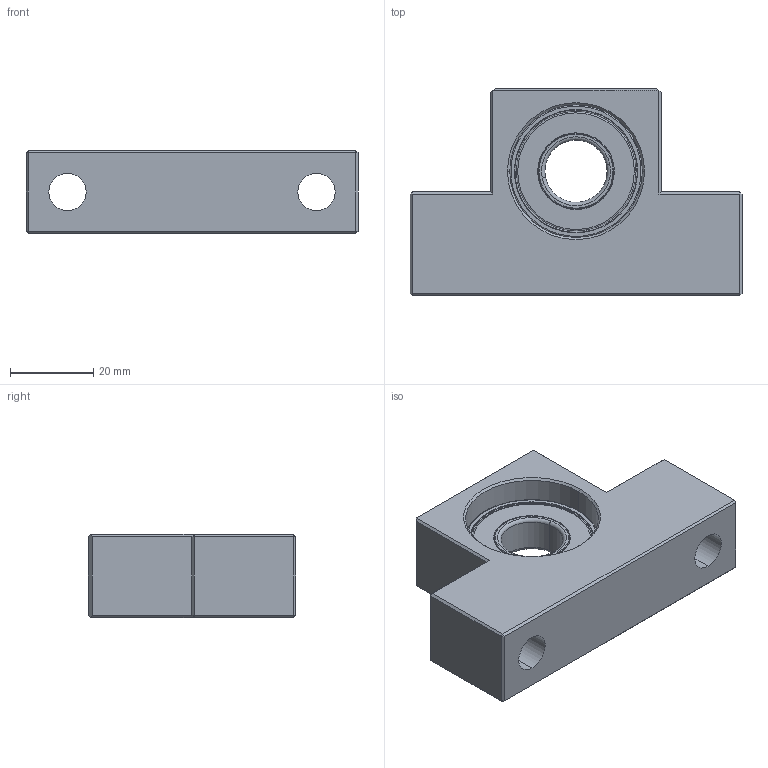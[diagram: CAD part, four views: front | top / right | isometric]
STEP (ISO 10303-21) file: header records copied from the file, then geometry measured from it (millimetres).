
FILE_DESCRIPTION (( 'STEP AP203' ), '1' );
FILE_NAME ('EF15²Õ¦X¥ó.STEP', '2017-12-27T08:26:01', ( '' ), ( '' ), 'SwSTEP 2.0', 'SolidWorks 2017', '' );
FILE_SCHEMA (( 'CONFIG_CONTROL_DESIGN' ));
Length unit declared in the file: millimetre
Products named in the file (1): EF15組合件
Bounding box: 80 x 50 x 20 mm (x, y, z)
Surface area: 14741.7 mm2 (no closed solid volume)
Topology: 0 solids, 6 shells, 104 faces, 226 edges, 132 vertices
Faces by surface type: plane 48, torus 32, cylinder 20, cone 4
Entity records: 2896 total; most frequent: DIRECTION 556, CARTESIAN_POINT 463, ORIENTED_EDGE 432, EDGE_CURVE 226, AXIS2_PLACEMENT_3D 225, VERTEX_POINT 132, CIRCLE 120, EDGE_LOOP 118
